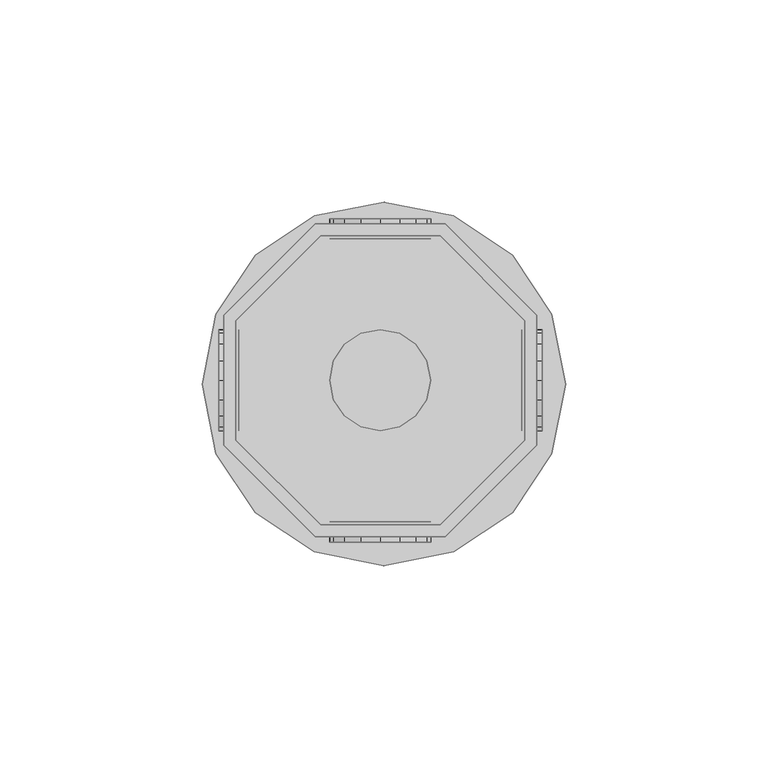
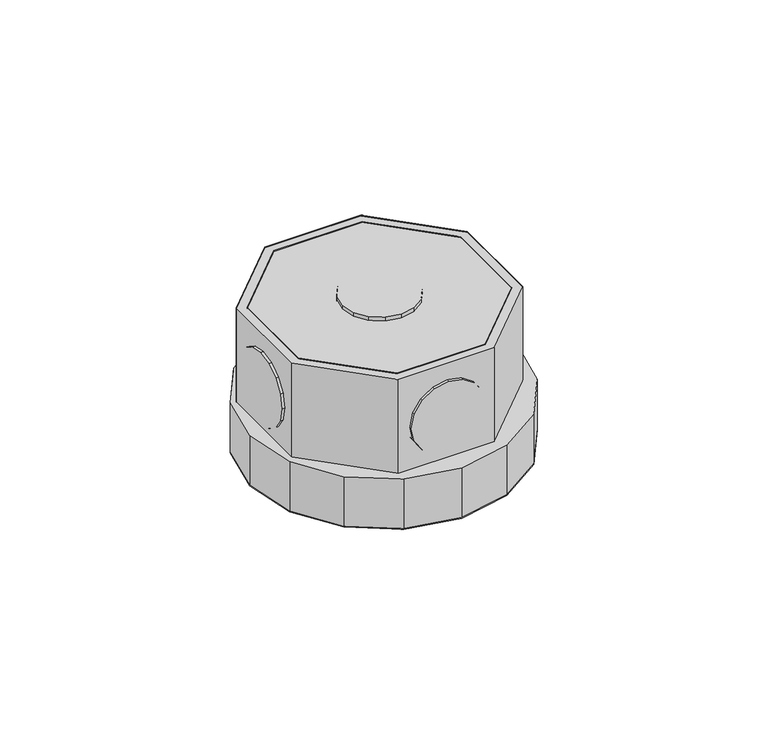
"""IFC4 building model written with IfcOpenShell, lengths in millimetres: light fixture geometry,  212732 :  212732."""

from ifc_helpers import new_model, si_unit, origin, place, context, project, spatial, triangles, source, transform, mapped, element, save


def light_fixture_03c9672a(model_context):
    return source(origin(), model_context, "Body", "Tessellation", [
        triangles([(27645.0009521, 10953.0000458, 2924.5999741), (27615.4004333, 10953.0000458, 2975.400071), (27615.4004333, 10953.0000458, 2924.5999741), (27645.0009521, 10953.0000458, 2975.400071), (27646.2008789, 10878.499942, 2924.5999741), (27614.1005127, 10878.499942, 2975.400071), (27614.1005127, 10878.499942, 2924.5999741), (27646.2008789, 10878.499942, 2975.400071), (27594.3993896, 10932.0001648, 2975.400071), (27594.3993896, 10932.0001648, 2924.5999741), (27668.8994934, 10901.1997192, 2924.5999741), (27668.8994934, 10901.1997192, 2975.400071), (27594.3993896, 10902.399646, 2975.400071), (27594.3993896, 10902.399646, 2924.5999741), (27668.8994934, 10933.3000854, 2924.5999741), (27668.8994934, 10933.3000854, 2975.400071), (27615.4004333, 10881.4997589, 2975.400071), (27615.4004333, 10881.4997589, 2924.5999741), (27646.2008789, 10955.9998627, 2924.5999741), (27646.2008789, 10955.9998627, 2975.400071), (27645.0009521, 10881.4997589, 2924.5999741), (27645.0009521, 10881.4997589, 2975.400071), (27614.1005127, 10955.9998627, 2975.400071), (27614.1005127, 10955.9998627, 2924.5999741), (27665.8996765, 10902.399646, 2924.5999741), (27665.8996765, 10902.399646, 2975.400071), (27591.3995728, 10933.3000854, 2975.400071), (27591.3995728, 10933.3000854, 2924.5999741), (27591.3995728, 10901.1997192, 2975.400071), (27665.8996765, 10932.0001648, 2975.400071), (27665.8996765, 10932.0001648, 2924.5999741), (27591.3995728, 10901.1997192, 2924.5999741), (27594.3993896, 10902.399646, 2972.3999634), (27615.4004333, 10881.4997589, 2972.3999634), (27645.0009521, 10881.4997589, 2972.3999634), (27665.8996765, 10902.399646, 2972.3999634), (27665.8996765, 10932.0001648, 2972.3999634), (27645.0009521, 10953.0000458, 2972.3999634), (27615.4004333, 10953.0000458, 2972.3999634), (27594.3993896, 10932.0001648, 2972.3999634), (27591.3995728, 10933.3000854, 2942.4000504), (27614.1005127, 10955.9998627, 2942.4000504), (27646.2008789, 10955.9998627, 2942.4000504), (27668.8994934, 10933.3000854, 2942.4000504), (27668.8994934, 10901.1997192, 2942.4000504), (27646.2008789, 10878.499942, 2942.4000504), (27614.1005127, 10878.499942, 2942.4000504), (27591.3995728, 10901.1997192, 2942.4000504), (27613.800531, 10874.8001678, 2942.4000504), (27589.4996887, 10899.0998474, 2942.4000504), (27599.1990967, 10884.4995758, 2942.4000504), (27586.0998962, 10916.2999603, 2942.4000504), (27589.4996887, 10933.6000671, 2942.4000504), (27599.1990967, 10948.2003387, 2942.4000504), (27613.800531, 10957.8997467, 2942.4000504), (27631.0994751, 10961.2995392, 2942.4000504), (27648.3007507, 10957.8997467, 2942.4000504), (27672.5992676, 10933.6000671, 2942.4000504), (27662.8998596, 10948.2003387, 2942.4000504), (27631.0994751, 10871.3003815, 2942.4000504), (27648.3007507, 10874.8001678, 2942.4000504), (27662.8998596, 10884.4995758, 2942.4000504), (27672.5992676, 10899.0998474, 2942.4000504), (27676.099054, 10916.2999603, 2942.4000504), (27589.4996887, 10899.0998474, 2924.5999741), (27613.800531, 10874.8001678, 2924.5999741), (27599.1990967, 10884.4995758, 2924.5999741), (27586.0998962, 10916.2999603, 2924.5999741), (27589.4996887, 10933.6000671, 2924.5999741), (27599.1990967, 10948.2003387, 2924.5999741), (27613.800531, 10957.8997467, 2924.5999741), (27631.0994751, 10961.2995392, 2924.5999741), (27648.3007507, 10957.8997467, 2924.5999741), (27672.5992676, 10933.6000671, 2924.5999741), (27662.8998596, 10948.2003387, 2924.5999741), (27631.0994751, 10871.3003815, 2924.5999741), (27648.3007507, 10874.8001678, 2924.5999741), (27662.8998596, 10884.4995758, 2924.5999741), (27672.5992676, 10899.0998474, 2924.5999741), (27676.099054, 10916.2999603, 2924.5999741), (27618.600238, 10957.1997894, 2952.6000092), (27625.399823, 10957.1997894, 2945.9001274), (27621.3000732, 10957.1997894, 2948.5999626), (27617.700293, 10957.1997894, 2957.4000069), (27630.19953, 10957.1997894, 2944.8998978), (27618.600238, 10957.1997894, 2962.2000046), (27634.9992371, 10957.1997894, 2945.9001274), (27621.3000732, 10957.1997894, 2966.2000511), (27638.9989929, 10957.1997894, 2948.5999626), (27625.399823, 10957.1997894, 2968.8998863), (27641.7011536, 10957.1997894, 2952.6000092), (27630.19953, 10957.1997894, 2969.900116), (27642.7010925, 10957.1997894, 2957.4000069), (27634.9992371, 10957.1997894, 2968.8998863), (27641.7011536, 10957.1997894, 2962.2000046), (27638.9989929, 10957.1997894, 2966.2000511), (27625.399823, 10952.2000946, 2945.9001274), (27618.600238, 10952.2000946, 2952.6000092), (27621.3000732, 10952.2000946, 2948.5999626), (27630.19953, 10952.2000946, 2944.8998978), (27617.700293, 10952.2000946, 2957.4000069), (27634.9992371, 10952.2000946, 2945.9001274), (27618.600238, 10952.2000946, 2962.2000046), (27638.9989929, 10952.2000946, 2948.5999626), (27621.3000732, 10952.2000946, 2966.2000511), (27625.399823, 10952.2000946, 2968.8998863), (27641.7011536, 10952.2000946, 2952.6000092), (27630.19953, 10952.2000946, 2969.900116), (27642.7010925, 10952.2000946, 2957.4000069), (27634.9992371, 10952.2000946, 2968.8998863), (27641.7011536, 10952.2000946, 2962.2000046), (27638.9989929, 10952.2000946, 2966.2000511), (27618.600238, 10882.1997162, 2952.6000092), (27625.399823, 10882.1997162, 2945.9001274), (27621.3000732, 10882.1997162, 2948.5999626), (27617.700293, 10882.1997162, 2957.4000069), (27630.19953, 10882.1997162, 2944.8998978), (27618.600238, 10882.1997162, 2962.2000046), (27634.9992371, 10882.1997162, 2945.9001274), (27621.3000732, 10882.1997162, 2966.2000511), (27638.9989929, 10882.1997162, 2948.5999626), (27625.399823, 10882.1997162, 2968.8998863), (27641.7011536, 10882.1997162, 2952.6000092), (27630.19953, 10882.1997162, 2969.900116), (27642.7010925, 10882.1997162, 2957.4000069), (27634.9992371, 10882.1997162, 2968.8998863), (27641.7011536, 10882.1997162, 2962.2000046), (27638.9989929, 10882.1997162, 2966.2000511), (27625.399823, 10877.2000214, 2945.9001274), (27618.600238, 10877.2000214, 2952.6000092), (27621.3000732, 10877.2000214, 2948.5999626), (27630.19953, 10877.2000214, 2944.8998978), (27617.700293, 10877.2000214, 2957.4000069), (27634.9992371, 10877.2000214, 2945.9001274), (27618.600238, 10877.2000214, 2962.2000046), (27638.9989929, 10877.2000214, 2948.5999626), (27621.3000732, 10877.2000214, 2966.2000511), (27625.399823, 10877.2000214, 2968.8998863), (27641.7011536, 10877.2000214, 2952.6000092), (27630.19953, 10877.2000214, 2969.900116), (27642.7010925, 10877.2000214, 2957.4000069), (27634.9992371, 10877.2000214, 2968.8998863), (27641.7011536, 10877.2000214, 2962.2000046), (27638.9989929, 10877.2000214, 2966.2000511), (27595.1993408, 10912.4001984, 2945.9001274), (27595.1993408, 10905.6994446, 2952.6000092), (27595.1993408, 10908.4004425, 2948.5999626), (27595.1993408, 10917.1999054, 2944.8998978), (27595.1993408, 10904.6995056, 2957.4000069), (27595.1993408, 10921.9996124, 2945.9001274), (27595.1993408, 10905.6994446, 2962.2000046), (27595.1993408, 10926.1005249, 2948.5999626), (27595.1993408, 10908.4004425, 2966.2000511), (27595.1993408, 10912.4001984, 2968.8998863), (27595.1993408, 10928.8003601, 2952.6000092), (27595.1993408, 10917.1999054, 2969.900116), (27595.1993408, 10929.7003052, 2957.4000069), (27595.1993408, 10921.9996124, 2968.8998863), (27595.1993408, 10928.8003601, 2962.2000046), (27595.1993408, 10926.1005249, 2966.2000511), (27590.199646, 10905.6994446, 2952.6000092), (27590.199646, 10912.4001984, 2945.9001274), (27590.199646, 10908.4004425, 2948.5999626), (27590.199646, 10904.6995056, 2957.4000069), (27590.199646, 10917.1999054, 2944.8998978), (27590.199646, 10905.6994446, 2962.2000046), (27590.199646, 10921.9996124, 2945.9001274), (27590.199646, 10908.4004425, 2966.2000511), (27590.199646, 10926.1005249, 2948.5999626), (27590.199646, 10912.4001984, 2968.8998863), (27590.199646, 10928.8003601, 2952.6000092), (27590.199646, 10917.1999054, 2969.900116), (27590.199646, 10929.7003052, 2957.4000069), (27590.199646, 10921.9996124, 2968.8998863), (27590.199646, 10928.8003601, 2962.2000046), (27590.199646, 10926.1005249, 2966.2000511), (27670.1994141, 10912.4001984, 2945.9001274), (27670.1994141, 10905.6994446, 2952.6000092), (27670.1994141, 10908.4004425, 2948.5999626), (27670.1994141, 10917.1999054, 2944.8998978), (27670.1994141, 10904.6995056, 2957.4000069), (27670.1994141, 10921.9996124, 2945.9001274), (27670.1994141, 10905.6994446, 2962.2000046), (27670.1994141, 10926.1005249, 2948.5999626), (27670.1994141, 10908.4004425, 2966.2000511), (27670.1994141, 10912.4001984, 2968.8998863), (27670.1994141, 10928.8003601, 2952.6000092), (27670.1994141, 10917.1999054, 2969.900116), (27670.1994141, 10929.7003052, 2957.4000069), (27670.1994141, 10921.9996124, 2968.8998863), (27670.1994141, 10928.8003601, 2962.2000046), (27670.1994141, 10926.1005249, 2966.2000511), (27665.1997192, 10905.6994446, 2952.6000092), (27665.1997192, 10912.4001984, 2945.9001274), (27665.1997192, 10908.4004425, 2948.5999626), (27665.1997192, 10904.6995056, 2957.4000069), (27665.1997192, 10917.1999054, 2944.8998978), (27665.1997192, 10905.6994446, 2962.2000046), (27665.1997192, 10921.9996124, 2945.9001274), (27665.1997192, 10908.4004425, 2966.2000511), (27665.1997192, 10926.1005249, 2948.5999626), (27665.1997192, 10912.4001984, 2968.8998863), (27665.1997192, 10928.8003601, 2952.6000092), (27665.1997192, 10917.1999054, 2969.900116), (27665.1997192, 10929.7003052, 2957.4000069), (27665.1997192, 10921.9996124, 2968.8998863), (27665.1997192, 10928.8003601, 2962.2000046), (27665.1997192, 10926.1005249, 2966.2000511), (27625.399823, 10905.6994446, 2976.9999733), (27618.600238, 10912.4001984, 2976.9999733), (27621.3000732, 10908.4004425, 2976.9999733), (27617.700293, 10917.1999054, 2976.9999733), (27630.19953, 10904.6995056, 2976.9999733), (27618.600238, 10921.9996124, 2976.9999733), (27634.9992371, 10905.6994446, 2976.9999733), (27621.3000732, 10926.1005249, 2976.9999733), (27638.9989929, 10908.4004425, 2976.9999733), (27625.399823, 10928.8003601, 2976.9999733), (27641.7011536, 10912.4001984, 2976.9999733), (27630.19953, 10929.7003052, 2976.9999733), (27642.7010925, 10917.1999054, 2976.9999733), (27634.9992371, 10928.8003601, 2976.9999733), (27641.7011536, 10921.9996124, 2976.9999733), (27638.9989929, 10926.1005249, 2976.9999733), (27618.600238, 10912.4001984, 2971.9999878), (27625.399823, 10905.6994446, 2971.9999878), (27621.3000732, 10908.4004425, 2971.9999878), (27617.700293, 10917.1999054, 2971.9999878), (27630.19953, 10904.6995056, 2971.9999878), (27618.600238, 10921.9996124, 2971.9999878), (27634.9992371, 10905.6994446, 2971.9999878), (27621.3000732, 10926.1005249, 2971.9999878), (27638.9989929, 10908.4004425, 2971.9999878), (27625.399823, 10928.8003601, 2971.9999878), (27641.7011536, 10912.4001984, 2971.9999878), (27630.19953, 10929.7003052, 2971.9999878), (27642.7010925, 10917.1999054, 2971.9999878), (27634.9992371, 10928.8003601, 2971.9999878), (27641.7011536, 10921.9996124, 2971.9999878), (27638.9989929, 10926.1005249, 2971.9999878)], [[1, 2, 3], [2, 1, 4], [5, 6, 7], [6, 5, 8], [3, 9, 10], [9, 3, 2], [11, 8, 5], [8, 11, 12], [10, 13, 14], [13, 10, 9], [15, 12, 11], [12, 15, 16], [14, 17, 18], [17, 14, 13], [19, 16, 15], [16, 19, 20], [17, 21, 18], [21, 17, 22], [23, 19, 24], [19, 23, 20], [22, 25, 21], [25, 22, 26], [27, 24, 28], [24, 27, 23], [6, 13, 29], [29, 13, 27], [27, 13, 9], [27, 9, 23], [23, 9, 2], [23, 2, 4], [23, 4, 20], [20, 4, 30], [8, 17, 6], [6, 17, 13], [17, 8, 22], [12, 22, 8], [22, 12, 26], [30, 26, 12], [16, 30, 12], [20, 30, 16], [30, 1, 31], [1, 30, 4], [6, 32, 7], [32, 6, 29], [32, 14, 7], [28, 14, 32], [14, 28, 10], [24, 10, 28], [10, 24, 3], [1, 3, 24], [19, 1, 24], [31, 1, 19], [7, 18, 5], [14, 18, 7], [5, 18, 21], [5, 21, 11], [11, 21, 25], [11, 25, 31], [11, 31, 15], [15, 31, 19], [26, 31, 25], [31, 26, 30], [29, 28, 32], [28, 29, 27], [17, 33, 34], [33, 17, 13], [35, 17, 34], [17, 35, 22], [36, 22, 35], [22, 36, 26], [37, 26, 36], [26, 37, 30], [38, 30, 37], [30, 38, 4], [2, 38, 39], [38, 2, 4], [17, 9, 13], [9, 17, 22], [9, 22, 2], [2, 22, 26], [2, 26, 4], [4, 26, 30], [13, 40, 33], [40, 13, 9], [40, 34, 33], [35, 34, 40], [35, 40, 39], [35, 39, 36], [36, 39, 38], [36, 38, 37], [9, 39, 40], [39, 9, 2], [24, 41, 28], [41, 24, 42], [19, 42, 24], [42, 19, 43], [44, 19, 15], [19, 44, 43], [45, 15, 11], [15, 45, 44], [46, 11, 5], [11, 46, 45], [47, 5, 7], [5, 47, 46], [32, 47, 7], [47, 32, 48], [28, 48, 32], [48, 28, 41], [49, 50, 51], [48, 50, 49], [50, 48, 52], [41, 52, 48], [52, 41, 53], [53, 41, 54], [42, 54, 41], [54, 42, 55], [55, 42, 43], [55, 43, 56], [56, 43, 57], [57, 43, 44], [57, 44, 58], [57, 58, 59], [47, 49, 60], [49, 47, 48], [47, 60, 46], [61, 46, 60], [46, 61, 62], [46, 62, 45], [45, 62, 63], [44, 45, 63], [44, 63, 64], [44, 64, 58], [65, 66, 67], [66, 65, 32], [68, 32, 65], [32, 68, 28], [28, 68, 69], [70, 28, 69], [28, 70, 24], [71, 24, 70], [19, 24, 71], [19, 71, 72], [73, 19, 72], [19, 73, 15], [74, 15, 73], [74, 73, 75], [76, 66, 7], [32, 7, 66], [5, 76, 7], [76, 5, 77], [77, 5, 78], [11, 78, 5], [78, 11, 79], [79, 11, 15], [79, 15, 80], [80, 15, 74], [57, 75, 73], [75, 57, 59], [56, 73, 72], [73, 56, 57], [55, 72, 71], [72, 55, 56], [54, 71, 70], [71, 54, 55], [53, 70, 69], [70, 53, 54], [52, 69, 68], [69, 52, 53], [50, 68, 65], [68, 50, 52], [51, 65, 67], [65, 51, 50], [66, 51, 67], [51, 66, 49], [76, 49, 66], [49, 76, 60], [77, 60, 76], [60, 77, 61], [78, 61, 77], [61, 78, 62], [79, 62, 78], [62, 79, 63], [80, 63, 79], [63, 80, 64], [75, 58, 74], [58, 75, 59], [74, 64, 80], [64, 74, 58], [81, 82, 83], [82, 81, 84], [85, 82, 84], [85, 84, 86], [87, 85, 86], [87, 86, 88], [87, 88, 89], [89, 88, 90], [89, 90, 91], [91, 90, 92], [91, 92, 93], [93, 92, 94], [93, 94, 95], [95, 94, 96], [97, 98, 99], [98, 97, 100], [101, 98, 100], [101, 100, 102], [103, 101, 102], [103, 102, 104], [103, 104, 105], [105, 104, 106], [106, 104, 107], [106, 107, 108], [108, 107, 109], [108, 109, 110], [110, 109, 111], [110, 111, 112], [87, 104, 102], [104, 87, 89], [85, 102, 100], [102, 85, 87], [82, 100, 97], [100, 82, 85], [83, 97, 99], [97, 83, 82], [98, 83, 99], [83, 98, 81], [101, 81, 98], [81, 101, 84], [103, 84, 101], [84, 103, 86], [105, 86, 103], [86, 105, 88], [106, 88, 105], [88, 106, 90], [108, 90, 106], [90, 108, 92], [110, 92, 108], [92, 110, 94], [112, 94, 110], [94, 112, 96], [95, 112, 111], [112, 95, 96], [93, 111, 109], [111, 93, 95], [89, 107, 104], [107, 89, 91], [91, 109, 107], [109, 91, 93], [113, 114, 115], [114, 113, 116], [117, 114, 116], [117, 116, 118], [119, 117, 118], [119, 118, 120], [119, 120, 121], [121, 120, 122], [121, 122, 123], [123, 122, 124], [123, 124, 125], [125, 124, 126], [125, 126, 127], [127, 126, 128], [129, 130, 131], [130, 129, 132], [133, 130, 132], [133, 132, 134], [135, 133, 134], [135, 134, 136], [135, 136, 137], [137, 136, 138], [138, 136, 139], [138, 139, 140], [140, 139, 141], [140, 141, 142], [142, 141, 143], [142, 143, 144], [119, 136, 134], [136, 119, 121], [117, 134, 132], [134, 117, 119], [114, 132, 129], [132, 114, 117], [115, 129, 131], [129, 115, 114], [130, 115, 131], [115, 130, 113], [133, 113, 130], [113, 133, 116], [135, 116, 133], [116, 135, 118], [137, 118, 135], [118, 137, 120], [138, 120, 137], [120, 138, 122], [140, 122, 138], [122, 140, 124], [142, 124, 140], [124, 142, 126], [144, 126, 142], [126, 144, 128], [127, 144, 143], [144, 127, 128], [125, 143, 141], [143, 125, 127], [121, 139, 136], [139, 121, 123], [123, 141, 139], [141, 123, 125], [145, 146, 147], [146, 145, 148], [149, 146, 148], [149, 148, 150], [151, 149, 150], [151, 150, 152], [151, 152, 153], [153, 152, 154], [154, 152, 155], [154, 155, 156], [156, 155, 157], [156, 157, 158], [158, 157, 159], [158, 159, 160], [161, 162, 163], [162, 161, 164], [165, 162, 164], [165, 164, 166], [167, 165, 166], [167, 166, 168], [169, 167, 168], [169, 168, 170], [169, 170, 171], [171, 170, 172], [171, 172, 173], [173, 172, 174], [173, 174, 175], [175, 174, 176], [158, 176, 174], [176, 158, 160], [156, 174, 172], [174, 156, 158], [154, 172, 170], [172, 154, 156], [153, 170, 168], [170, 153, 154], [151, 168, 166], [168, 151, 153], [149, 166, 164], [166, 149, 151], [146, 164, 161], [164, 146, 149], [147, 161, 163], [161, 147, 146], [162, 147, 163], [147, 162, 145], [165, 145, 162], [145, 165, 148], [167, 148, 165], [148, 167, 150], [169, 150, 167], [150, 169, 152], [171, 152, 169], [152, 171, 155], [173, 155, 171], [155, 173, 157], [176, 159, 175], [159, 176, 160], [175, 157, 173], [157, 175, 159], [177, 178, 179], [178, 177, 180], [181, 178, 180], [181, 180, 182], [183, 181, 182], [183, 182, 184], [183, 184, 185], [185, 184, 186], [186, 184, 187], [186, 187, 188], [188, 187, 189], [188, 189, 190], [190, 189, 191], [190, 191, 192], [193, 194, 195], [194, 193, 196], [197, 194, 196], [197, 196, 198], [199, 197, 198], [199, 198, 200], [201, 199, 200], [201, 200, 202], [201, 202, 203], [203, 202, 204], [203, 204, 205], [205, 204, 206], [205, 206, 207], [207, 206, 208], [190, 208, 206], [208, 190, 192], [188, 206, 204], [206, 188, 190], [186, 204, 202], [204, 186, 188], [185, 202, 200], [202, 185, 186], [183, 200, 198], [200, 183, 185], [181, 198, 196], [198, 181, 183], [178, 196, 193], [196, 178, 181], [179, 193, 195], [193, 179, 178], [194, 179, 195], [179, 194, 177], [197, 177, 194], [177, 197, 180], [199, 180, 197], [180, 199, 182], [201, 182, 199], [182, 201, 184], [203, 184, 201], [184, 203, 187], [205, 187, 203], [187, 205, 189], [208, 191, 207], [191, 208, 192], [207, 189, 205], [189, 207, 191], [209, 210, 211], [212, 210, 209], [212, 209, 213], [214, 212, 213], [214, 213, 215], [216, 214, 215], [216, 215, 217], [216, 217, 218], [218, 217, 219], [218, 219, 220], [220, 219, 221], [220, 221, 222], [222, 221, 223], [222, 223, 224], [225, 226, 227], [226, 225, 228], [229, 226, 228], [229, 228, 230], [231, 229, 230], [231, 230, 232], [231, 232, 233], [233, 232, 234], [233, 234, 235], [235, 234, 236], [235, 236, 237], [237, 236, 238], [237, 238, 239], [239, 238, 240], [222, 240, 238], [240, 222, 224], [220, 238, 236], [238, 220, 222], [218, 236, 234], [236, 218, 220], [216, 234, 232], [234, 216, 218], [214, 232, 230], [232, 214, 216], [212, 230, 228], [230, 212, 214], [210, 228, 225], [228, 210, 212], [211, 225, 227], [225, 211, 210], [226, 211, 227], [211, 226, 209], [229, 209, 226], [209, 229, 213], [231, 213, 229], [213, 231, 215], [233, 215, 231], [215, 233, 217], [235, 217, 233], [217, 235, 219], [237, 219, 235], [219, 237, 221], [240, 223, 239], [223, 240, 224], [239, 221, 237], [221, 239, 223]], closed=False),
    ])


if __name__ == "__main__":
    model = new_model("IFC4")
    model_context = context("Model", 3, world=origin())
    ifc_project = project(units=[si_unit("LENGTHUNIT", "METRE", prefix="MILLI")], contexts=[model_context])
    site = spatial("IfcSite", under=ifc_project)
    building = spatial("IfcBuilding", under=site)
    placement = place(None, origin())
    light_fixture_shape = light_fixture_03c9672a(model_context)
    element("IfcLightFixture", 1, ObjectType=" 212732 :  212732", at=placement, inside=building, context=model_context, shape_type="MappedRepresentation", body=[
        mapped(light_fixture_shape, transform((0.0, 0.0, 0.0), x_axis=(1.0, 0.0, 0.0), y_axis=(0.0, 1.0, 0.0), z_axis=(0.0, 0.0, 1.0))),
    ])
    save(model, "model.ifc")
